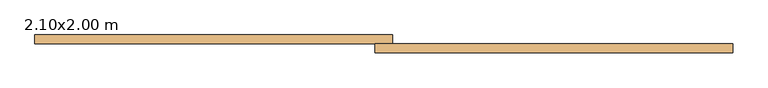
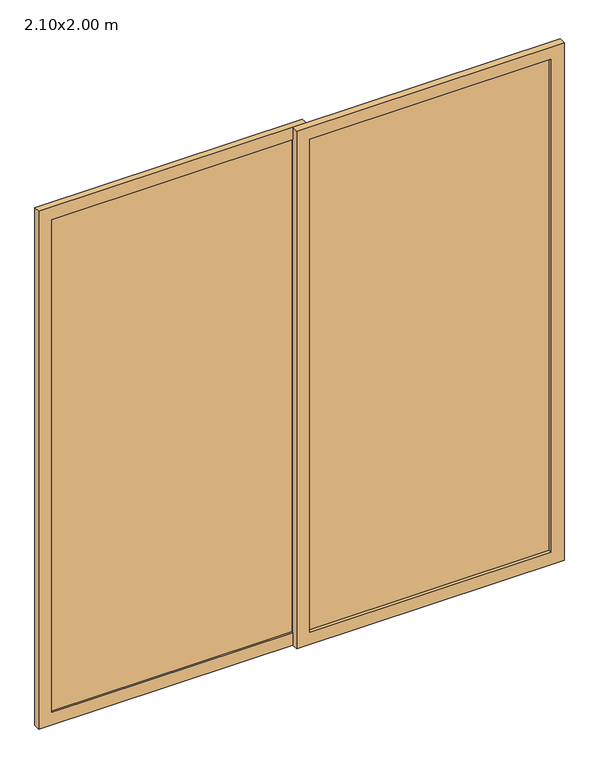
"""IFC4 building model written with IfcOpenShell, lengths in millimetres: door geometry, PUERTA CORREDIZA DE CRISTAL : 2.10x2.00 m."""

from ifc_helpers import new_model, si_unit, frame, origin, place, context, project, spatial, polyline, outline, extrude, source, transform, mapped, element, save


def door_2_10x2_00_m_72350d4a(model_context):
    return source(origin(), model_context, "Body", "SweptSolid", [
        extrude(outline(polyline([(949.2, -6.7), (949.2, -12.7), (25.4, -12.7), (25.4, -6.7), (949.2, -6.7)])), frame((0.0, 0.0, 50.8), z_axis=(0.0, 0.0, 1.0), x_axis=(1.0, 0.0, 0.0)), (0.0, 0.0, 1.0), 1998.4),
        extrude(outline(polyline([(-949.2, 6.7), (-949.2, 12.7), (-25.4, 12.7), (-25.4, 6.7), (-949.2, 6.7)])), frame((0.0, 0.0, 50.8), z_axis=(0.0, 0.0, 1.0), x_axis=(1.0, 0.0, 0.0)), (0.0, 0.0, 1.0), 1998.4),
        extrude(outline(polyline([(2100.0, -25.4), (0.0, -25.4), (0.0, 1000.0), (2100.0, 1000.0), (2100.0, -25.4)]), holes=[polyline([(2049.2, 949.2), (50.8, 949.2), (50.8, 25.4), (2049.2, 25.4), (2049.2, 949.2)])]), frame((0.0, -25.4, 0.0), z_axis=(0.0, 1.0, 0.0), x_axis=(0.0, 0.0, 1.0)), (0.0, 0.0, 1.0), 25.4),
        extrude(outline(polyline([(2100.0, 25.4), (2100.0, -1000.0), (0.0, -1000.0), (0.0, 25.4), (2100.0, 25.4)]), holes=[polyline([(2049.2, -25.4), (50.8, -25.4), (50.8, -949.2), (2049.2, -949.2), (2049.2, -25.4)])]), frame((0.0, 0.0, 0.0), z_axis=(0.0, 1.0, 0.0), x_axis=(0.0, 0.0, 1.0)), (0.0, 0.0, 1.0), 25.4),
    ])


if __name__ == "__main__":
    model = new_model("IFC4")
    model_context = context("Model", 3, world=origin())
    ifc_project = project(units=[si_unit("LENGTHUNIT", "METRE", prefix="MILLI")], contexts=[model_context])
    site = spatial("IfcSite", under=ifc_project)
    building = spatial("IfcBuilding", under=site)
    placement = place(None, origin())
    door_2_10x2_00_m_shape = door_2_10x2_00_m_72350d4a(model_context)
    element("IfcDoor", 1, ObjectType="PUERTA CORREDIZA DE CRISTAL : 2.10x2.00 m", at=placement, inside=building, context=model_context, shape_type="MappedRepresentation", body=[
        mapped(door_2_10x2_00_m_shape, transform((0.0, 0.0, 0.0), x_axis=(1.0, 0.0, 0.0), y_axis=(0.0, 1.0, 0.0), z_axis=(0.0, 0.0, 1.0))),
    ])
    save(model, "model.ifc")
